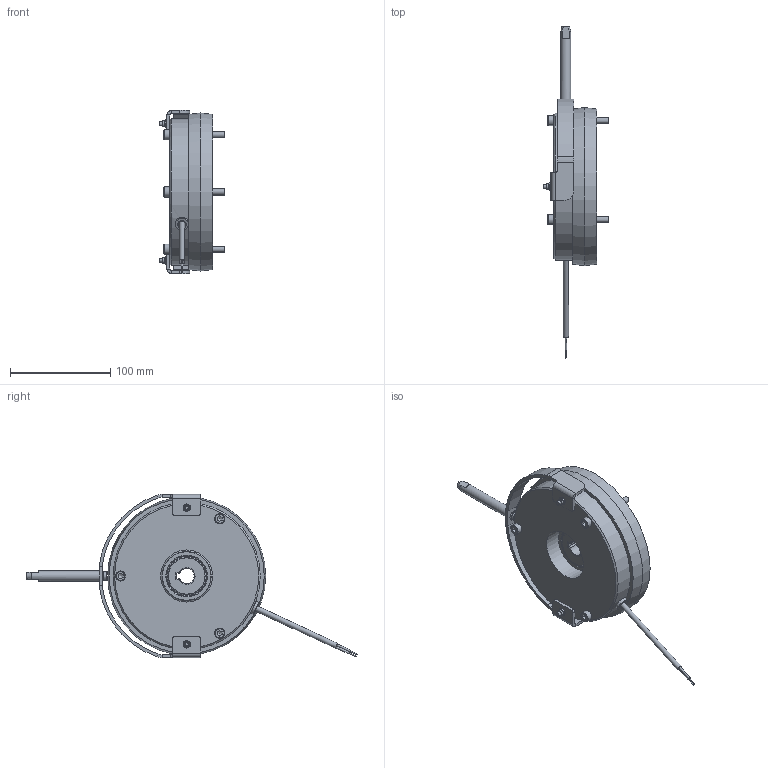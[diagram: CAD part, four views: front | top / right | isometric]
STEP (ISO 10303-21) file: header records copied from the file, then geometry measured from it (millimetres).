
FILE_DESCRIPTION(/* description */ (''),/* implementation_level */ '2;1');
FILE_NAME(/* name */ 'C:\SapWorkDir\Inventor\IP1\ConvertTempPath\5029494_IPT_000.ipt.stp',/* time_stamp */ '2021-04-21T08:51:54+02:00',/* author */ ('WOELK'),/* organization */ (''),/* preprocessor_version */ 'ST-DEVELOPER v17',/* originating_system */ 'Autodesk Inventor 2018',/* authorisation */ '');
FILE_SCHEMA (('AUTOMOTIVE_DESIGN { 1 0 10303 214 3 1 1 }'));
Products named in the file (1): 5029494
Bounding box: 65.9 x 331.65 x 163 mm (x, y, z)
Volume: 652748.3 mm3; surface area: 177142.6 mm2
Topology: 1 solids, 1 shells, 1864 faces, 5881 edges, 3890 vertices
Faces by surface type: cylinder 979, plane 484, torus 220, cone 120, bspline 61
Full cylindrical faces by diameter (mm): 1 x2, 1.85 x2, 4 x4, 5 x3, 5.3 x1, 5.5 x3, 5.9 x2, 6 x3, 6.03 x2, 6.15 x3, 6.5 x3, 6.6 x7, 8 x1, 8.917 x3, 10 x7, 10.4 x3, 12 x3, 13.2 x1, 43.45 x1, 52 x2, 68 x1, 69.5 x2, 70.1 x2, 115 x1, 147 x2
Entity records: 73057 total; most frequent: CARTESIAN_POINT 19769, ORIENTED_EDGE 11758, DIRECTION 10210, EDGE_CURVE 5879, AXIS2_PLACEMENT_3D 3937, VERTEX_POINT 3890, LINE 2336, VECTOR 2336
